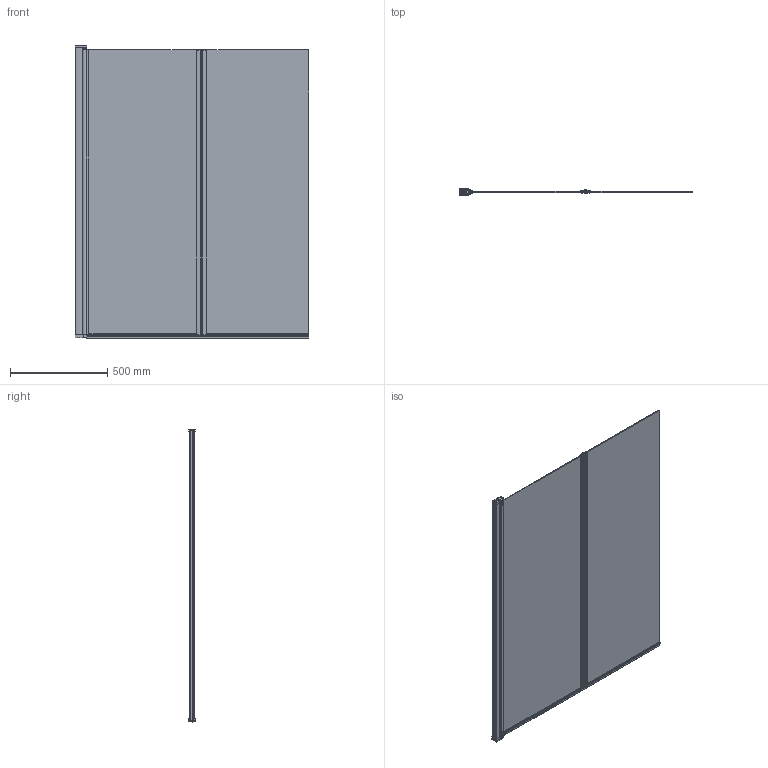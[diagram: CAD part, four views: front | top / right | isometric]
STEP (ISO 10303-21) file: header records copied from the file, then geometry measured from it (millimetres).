
FILE_DESCRIPTION(/* description */ (''),/* implementation_level */ '2;1');
FILE_NAME(/* name */ 'c:\worker\convert-fusion-r05\tmp\job-1\91\output\files\933d7a6b-f9ee-46a0-99d2-35bf419d30fc\0b173a5f-c66d-4115-9e29-85e119b23156.stp',/* time_stamp */ '2020-07-09T06:53:57+00:00',/* author */ (''),/* organization */ (''),/* preprocessor_version */ 'ST-DEVELOPER v18.1',/* originating_system */ 'Autodesk Translation Framework v9.3.0.1241',/* authorisation */ '');
FILE_SCHEMA (('AUTOMOTIVE_DESIGN { 1 0 10303 214 3 1 1 }'));
Products named in the file (1): xhe20_asm
Bounding box: 1200.8 x 33.25 x 1501.7 mm (x, y, z)
Volume: 9123961.5 mm3; surface area: 5002818.7 mm2
Topology: 35 solids, 35 shells, 2241 faces, 5922 edges, 3765 vertices
Faces by surface type: cylinder 1063, plane 765, bspline 180, torus 135, sphere 76, cone 22
Full cylindrical faces by diameter (mm): 2.5 x4, 2.915 x152, 3 x14, 4 x6, 4.2 x4, 5 x6, 7.6 x4, 8 x6, 8.2 x2, 8.32 x4, 10 x4, 24.998 x2
Entity records: 109400 total; most frequent: CARTESIAN_POINT 53941, ORIENTED_EDGE 11844, DIRECTION 11519, EDGE_CURVE 5922, AXIS2_PLACEMENT_3D 4243, VERTEX_POINT 3765, LINE 3033, VECTOR 3033
